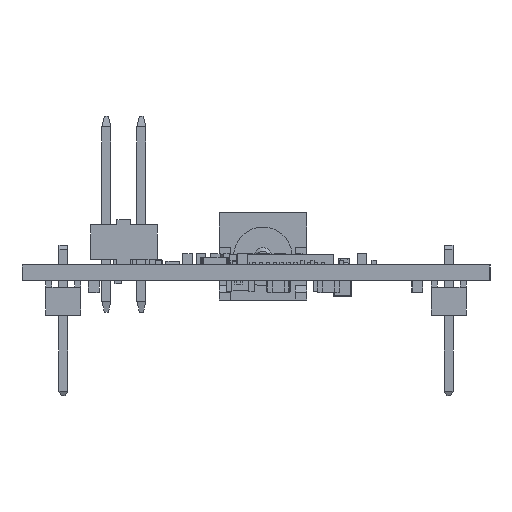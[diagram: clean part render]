
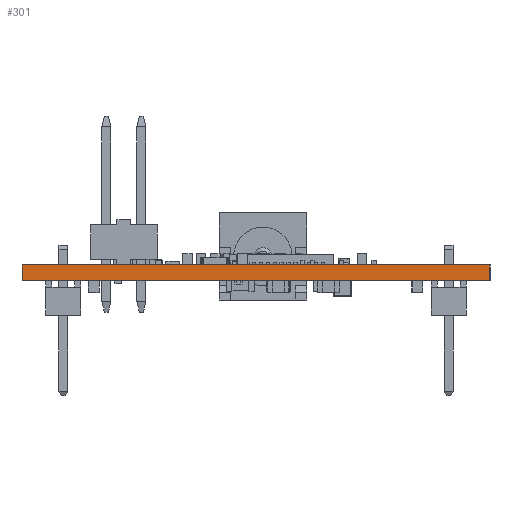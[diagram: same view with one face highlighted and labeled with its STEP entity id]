
A CAD part, left-side view. The second image highlights one B-rep face of the part: STEP entity #301.
In plain terms, the highlighted planar face has unit normal (-1, 0, 0).
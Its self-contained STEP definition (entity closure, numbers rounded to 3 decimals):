
#301 = ADVANCED_FACE('',(#302),#336,.T.);
#302 = FACE_BOUND('',#303,.T.);
#303 = EDGE_LOOP('',(#304,#314,#322,#330));
#304 = ORIENTED_EDGE('',*,*,#305,.T.);
#305 = EDGE_CURVE('',#306,#308,#310,.T.);
#306 = VERTEX_POINT('',#307);
#307 = CARTESIAN_POINT('',(91.,59.,0.));
#308 = VERTEX_POINT('',#309);
#309 = CARTESIAN_POINT('',(91.,59.,1.11));
#310 = LINE('',#311,#312);
#311 = CARTESIAN_POINT('',(91.,59.,0.));
#312 = VECTOR('',#313,1.);
#313 = DIRECTION('',(0.,0.,1.));
#314 = ORIENTED_EDGE('',*,*,#315,.T.);
#315 = EDGE_CURVE('',#308,#316,#318,.T.);
#316 = VERTEX_POINT('',#317);
#317 = CARTESIAN_POINT('',(91.,93.,1.11));
#318 = LINE('',#319,#320);
#319 = CARTESIAN_POINT('',(91.,59.,1.11));
#320 = VECTOR('',#321,1.);
#321 = DIRECTION('',(0.,1.,0.));
#322 = ORIENTED_EDGE('',*,*,#323,.F.);
#323 = EDGE_CURVE('',#324,#316,#326,.T.);
#324 = VERTEX_POINT('',#325);
#325 = CARTESIAN_POINT('',(91.,93.,0.));
#326 = LINE('',#327,#328);
#327 = CARTESIAN_POINT('',(91.,93.,0.));
#328 = VECTOR('',#329,1.);
#329 = DIRECTION('',(0.,0.,1.));
#330 = ORIENTED_EDGE('',*,*,#331,.F.);
#331 = EDGE_CURVE('',#306,#324,#332,.T.);
#332 = LINE('',#333,#334);
#333 = CARTESIAN_POINT('',(91.,59.,0.));
#334 = VECTOR('',#335,1.);
#335 = DIRECTION('',(0.,1.,0.));
#336 = PLANE('',#337);
#337 = AXIS2_PLACEMENT_3D('',#338,#339,#340);
#338 = CARTESIAN_POINT('',(91.,59.,0.));
#339 = DIRECTION('',(-1.,0.,0.));
#340 = DIRECTION('',(0.,1.,0.));
